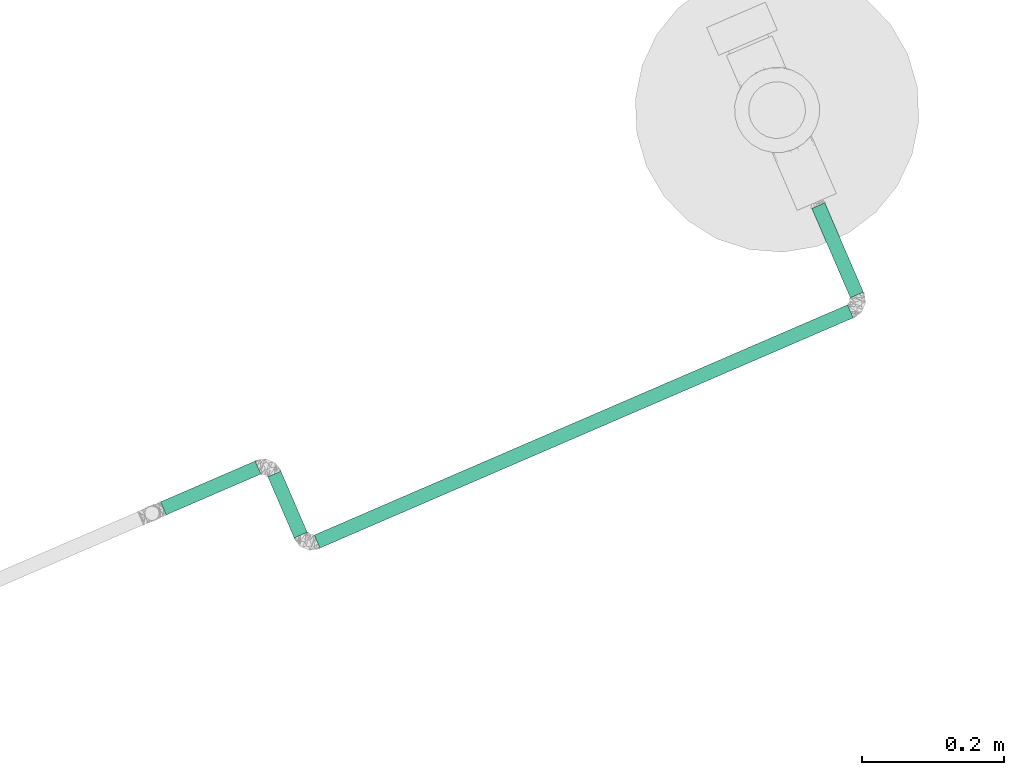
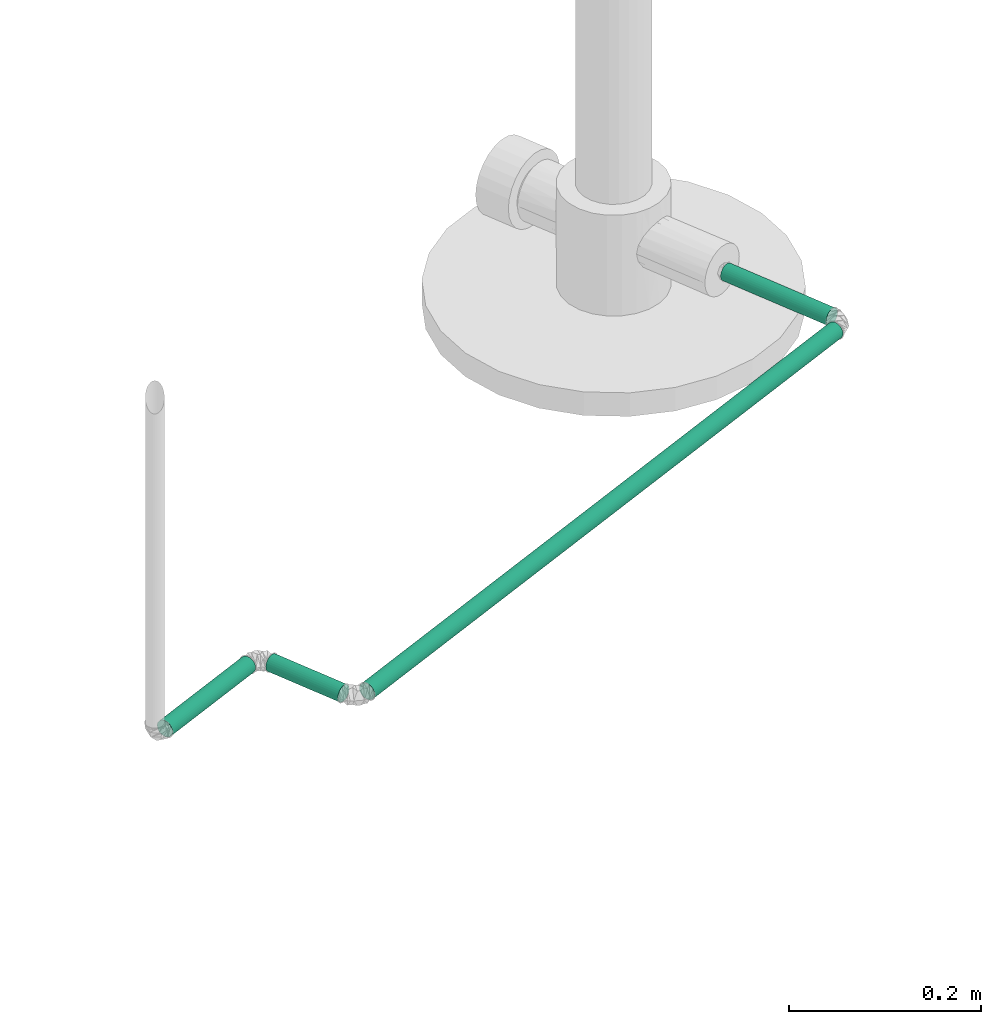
# One storey, part 13 of 26: 4 pipe segments.
"""IFC4 building model written with IfcOpenShell, lengths in metres."""

from ifc_helpers import new_model, entity, si_unit, converted_unit, derived_unit, direction, frame, origin, place, context, subcontext, project, spatial, arc, indexed_curve, outline, extrude, material, type_object, element, save


model = new_model("IFC4")

# Units and contexts
model_context = context("Model", 3, precision=1e-05, world=origin(), true_north=direction((6.12323399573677e-17, 1.0)))
body_context = subcontext(model_context, "Body", "Model", "MODEL_VIEW")
ifc_project = project(units=[si_unit("LENGTHUNIT", "METRE"), si_unit("AREAUNIT", "SQUARE_METRE"), si_unit("VOLUMEUNIT", "CUBIC_METRE"), si_unit("PRESSUREUNIT", "PASCAL"), derived_unit("VOLUMETRICFLOWRATEUNIT", [(si_unit("LENGTHUNIT", "METRE", prefix="DECI"), 3), (si_unit("TIMEUNIT", "SECOND"), -1)]), converted_unit("PLANEANGLEUNIT", "DEGREE", entity("IfcPlaneAngleMeasure", 0.0174532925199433), si_unit("PLANEANGLEUNIT", "RADIAN"), dimensions=[0, 0, 0, 0, 0, 0, 0])], contexts=[model_context])

# Site, building, storey
site_placement = place(None, origin())
site = spatial("IfcSite", under=ifc_project, at=site_placement, Name="Default", CompositionType="ELEMENT")
building_placement = place(site_placement, frame((24.575451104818, -55.896759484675, 317.15), z_axis=(0.0, 0.0, 1.0), x_axis=(-0.396377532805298, 0.918087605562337, 0.0)))
building = spatial("IfcBuilding", under=site, at=building_placement, CompositionType="ELEMENT")
storey_placement = place(building_placement, origin())
storey = spatial("IfcBuildingStorey", under=building, at=storey_placement, Name="Nivel 1", CompositionType="ELEMENT", Elevation=0.0)

# Pipe segments
ifc_material = material(Name="Cobre", Category="Undefined")
pipe_segment_type = type_object("IfcPipeSegmentType", Name="Pipe Types:GAS", PredefinedType="NOTDEFINED")
pipe_segment_1_placement = place(storey_placement, origin())
element("IfcPipeSegment", 1, at=pipe_segment_1_placement, inside=storey, type_object=pipe_segment_type, material=ifc_material, Name="Pipe Types:GAS", ObjectType="Pipe Types:GAS", PredefinedType="NOTDEFINED", context=body_context, shape_type="SweptSolid", body=[
    extrude(outline(indexed_curve([(0.0100000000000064, 0.0), (0.00707106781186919, 0.00707106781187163), (-8.66293703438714e-15, 0.01), (-0.00707106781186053, 0.00707106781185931), (-0.00999999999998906, 0.0), (-0.00707106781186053, -0.00707106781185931), (-8.66293703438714e-15, -0.01), (0.00707106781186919, -0.00707106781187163)], segments=[arc(1, 2, 3), arc(3, 4, 5), arc(5, 6, 7), arc(7, 8, 1)], self_intersect=False)), frame((28.9082142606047, 40.9427340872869, 0.855500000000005), z_axis=(1.0, 0.0, 0.0), x_axis=(0.0, 1.0, 0.0)), (0.0, 0.0, 1.0), 0.136981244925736),
])
pipe_segment_2_placement = place(storey_placement, origin())
element("IfcPipeSegment", 2, at=pipe_segment_2_placement, inside=storey, type_object=pipe_segment_type, material=ifc_material, Name="Pipe Types:GAS", ObjectType="Pipe Types:GAS", PredefinedType="NOTDEFINED", context=body_context, shape_type="SweptSolid", body=[
    extrude(outline(indexed_curve([(0.0100000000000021, 0.0), (0.00707106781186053, 0.00707106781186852), (-8.66293703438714e-15, 0.01), (-0.00707106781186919, 0.00707106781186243), (-0.0100000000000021, 0.0), (-0.00707106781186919, -0.00707106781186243), (-8.66293703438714e-15, -0.01), (0.00707106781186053, -0.00707106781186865)], segments=[arc(1, 2, 3), arc(3, 4, 5), arc(5, 6, 7), arc(7, 8, 1)], self_intersect=False)), frame((28.8907517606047, 40.9601965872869, 0.855499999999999), z_axis=(0.0, 1.0, 0.0), x_axis=(-1.0, 0.0, 0.0)), (0.0, 0.0, 1.0), 0.817195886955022),
])
pipe_segment_3_placement = place(storey_placement, origin())
element("IfcPipeSegment", 3, at=pipe_segment_3_placement, inside=storey, type_object=pipe_segment_type, material=ifc_material, Name="Pipe Types:GAS", ObjectType="Pipe Types:GAS", PredefinedType="NOTDEFINED", context=body_context, shape_type="SweptSolid", body=[
    extrude(outline(indexed_curve([(0.0100000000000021, 0.0), (0.00707106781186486, 0.00707106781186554), (0.0, 0.01), (-0.00707106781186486, 0.00707106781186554), (-0.0100000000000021, 0.0), (-0.00707106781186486, -0.0070710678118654), (0.0, -0.01), (0.00707106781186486, -0.00707106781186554)], segments=[arc(1, 2, 3), arc(3, 4, 5), arc(5, 6, 7), arc(7, 8, 1)], self_intersect=False)), frame((29.0193069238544, 41.8123174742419, 0.8555), z_axis=(0.0, 1.0, 0.0), x_axis=(1.0, 0.0, 0.0)), (0.0, 0.0, 1.0), 0.145075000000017),
])
pipe_segment_4_placement = place(storey_placement, origin())
element("IfcPipeSegment", 4, at=pipe_segment_4_placement, inside=storey, type_object=pipe_segment_type, material=ifc_material, Name="Pipe Types:GAS", ObjectType="Pipe Types:GAS", PredefinedType="NOTDEFINED", context=body_context, shape_type="SweptSolid", body=[
    extrude(outline(indexed_curve([(0.00999999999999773, 0.0), (0.00707106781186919, 0.00707106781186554), (0.0, 0.01), (-0.00707106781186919, 0.00707106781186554), (-0.00999999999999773, 0.0), (-0.00707106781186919, -0.0070710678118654), (0.0, -0.01), (0.00707106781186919, -0.00707106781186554)], segments=[arc(1, 2, 3), arc(3, 4, 5), arc(5, 6, 7), arc(7, 8, 1)], self_intersect=False)), frame((28.9082142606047, 41.7948549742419, 0.8555), z_axis=(1.0, 0.0, 0.0), x_axis=(0.0, 1.0, 0.0)), (0.0, 0.0, 1.0), 0.0936301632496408),
])

save(model, "model.ifc")
